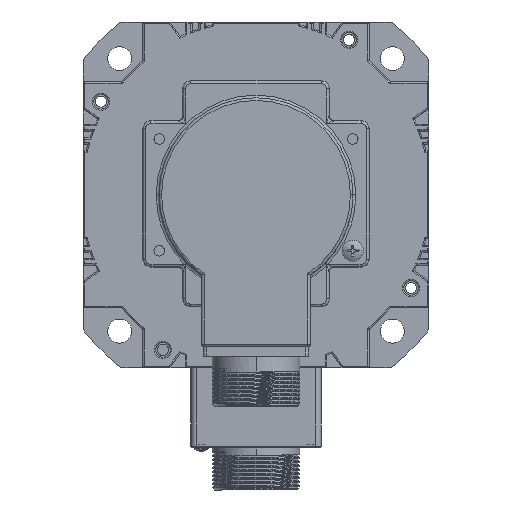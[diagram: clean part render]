
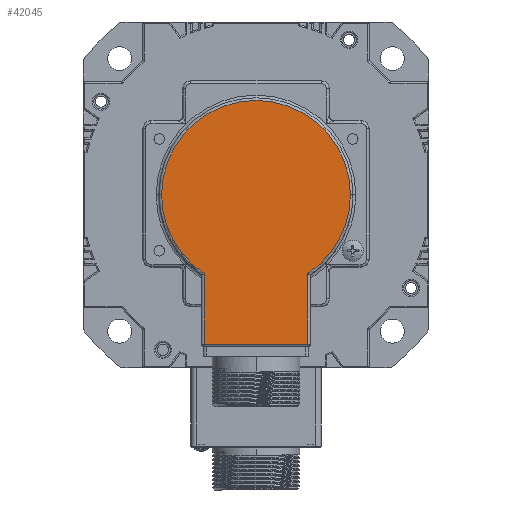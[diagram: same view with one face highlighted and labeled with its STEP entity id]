
A CAD part, front view. The second image highlights one B-rep face of the part: STEP entity #42045.
In plain terms, the highlighted planar face has unit normal (0, -1, 0) as drawn and (0, 0, -1) by its records, which use the part's own axes.
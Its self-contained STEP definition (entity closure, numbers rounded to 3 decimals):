
#1558 = VECTOR ( 'NONE', #21045, 1000. ) ;
#2374 = CARTESIAN_POINT ( 'NONE',  ( -35.5, 0., -33. ) ) ;
#2875 = VERTEX_POINT ( 'NONE', #2374 ) ;
#10611 = DIRECTION ( 'NONE',  ( 1., 0., 0. ) ) ;
#10709 = DIRECTION ( 'NONE',  ( -1., 0., 0. ) ) ;
#12541 = VECTOR ( 'NONE', #10611, 1000. ) ;
#13790 = AXIS2_PLACEMENT_3D ( 'NONE', #62640, #51763, #40671 ) ;
#13878 = AXIS2_PLACEMENT_3D ( 'NONE', #42851, #48087, #10709 ) ;
#14436 = AXIS2_PLACEMENT_3D ( 'NONE', #44403, #22923, #45120 ) ;
#18876 = DIRECTION ( 'NONE',  ( -1., 0., 0. ) ) ;
#19439 = ORIENTED_EDGE ( 'NONE', *, *, #52653, .T. ) ;
#21045 = DIRECTION ( 'NONE',  ( 0., 1., 0. ) ) ;
#21107 = CIRCLE ( 'NONE', #14436, 35.5 ) ;
#21381 = ORIENTED_EDGE ( 'NONE', *, *, #67497, .T. ) ;
#22923 = DIRECTION ( 'NONE',  ( 0., 0., -1. ) ) ;
#22928 = ORIENTED_EDGE ( 'NONE', *, *, #38887, .T. ) ;
#27705 = AXIS2_PLACEMENT_3D ( 'NONE', #35141, #67964, #18876 ) ;
#28066 = ORIENTED_EDGE ( 'NONE', *, *, #33892, .T. ) ;
#28655 = CARTESIAN_POINT ( 'NONE',  ( 35.5, 0., -33. ) ) ;
#31863 = CARTESIAN_POINT ( 'NONE',  ( -19.5, 57.15, -33. ) ) ;
#32054 = CARTESIAN_POINT ( 'NONE',  ( 19.5, 29.665, -33. ) ) ;
#32808 = ORIENTED_EDGE ( 'NONE', *, *, #45332, .T. ) ;
#32901 = VERTEX_POINT ( 'NONE', #51954 ) ;
#33892 = EDGE_CURVE ( 'NONE', #69352, #50395, #40768, .T. ) ;
#34131 = ORIENTED_EDGE ( 'NONE', *, *, #66787, .T. ) ;
#35141 = CARTESIAN_POINT ( 'NONE',  ( 0., 0., -33. ) ) ;
#35780 = EDGE_LOOP ( 'NONE', ( #19439, #21381, #28066, #22928, #34131, #32808 ) ) ;
#37236 = DIRECTION ( 'NONE',  ( 0., -1., 0. ) ) ;
#37696 = CARTESIAN_POINT ( 'NONE',  ( 19.5, 30.199, -33. ) ) ;
#38887 = EDGE_CURVE ( 'NONE', #50395, #70096, #48849, .T. ) ;
#40671 = DIRECTION ( 'NONE',  ( -1., 0., 0. ) ) ;
#40768 = LINE ( 'NONE', #37696, #60248 ) ;
#42045 = ADVANCED_FACE ( 'NONE', ( #51004 ), #51478, .T. ) ;
#42851 = CARTESIAN_POINT ( 'NONE',  ( 0., 0., -33. ) ) ;
#44403 = CARTESIAN_POINT ( 'NONE',  ( 0., 0., -33. ) ) ;
#45120 = DIRECTION ( 'NONE',  ( -1., 0., 0. ) ) ;
#45332 = EDGE_CURVE ( 'NONE', #2875, #32901, #68032, .T. ) ;
#48087 = DIRECTION ( 'NONE',  ( 0., 0., -1. ) ) ;
#48849 = CIRCLE ( 'NONE', #13878, 35.5 ) ;
#50395 = VERTEX_POINT ( 'NONE', #32054 ) ;
#51004 = FACE_OUTER_BOUND ( 'NONE', #35780, .T. ) ;
#51478 = PLANE ( 'NONE',  #27705 ) ;
#51763 = DIRECTION ( 'NONE',  ( 0., 0., -1. ) ) ;
#51954 = CARTESIAN_POINT ( 'NONE',  ( -19.5, 29.665, -33. ) ) ;
#52653 = EDGE_CURVE ( 'NONE', #32901, #63808, #65866, .T. ) ;
#53630 = CARTESIAN_POINT ( 'NONE',  ( 20.5, 56.15, -33. ) ) ;
#58555 = CARTESIAN_POINT ( 'NONE',  ( -19.5, 56.15, -33. ) ) ;
#60248 = VECTOR ( 'NONE', #37236, 1000. ) ;
#61556 = LINE ( 'NONE', #53630, #12541 ) ;
#61621 = CARTESIAN_POINT ( 'NONE',  ( 19.5, 56.15, -33. ) ) ;
#62640 = CARTESIAN_POINT ( 'NONE',  ( 0., 0., -33. ) ) ;
#63808 = VERTEX_POINT ( 'NONE', #58555 ) ;
#65866 = LINE ( 'NONE', #31863, #1558 ) ;
#66787 = EDGE_CURVE ( 'NONE', #70096, #2875, #21107, .T. ) ;
#67497 = EDGE_CURVE ( 'NONE', #63808, #69352, #61556, .T. ) ;
#67964 = DIRECTION ( 'NONE',  ( 0., 0., -1. ) ) ;
#68032 = CIRCLE ( 'NONE', #13790, 35.5 ) ;
#69352 = VERTEX_POINT ( 'NONE', #61621 ) ;
#70096 = VERTEX_POINT ( 'NONE', #28655 ) ;
